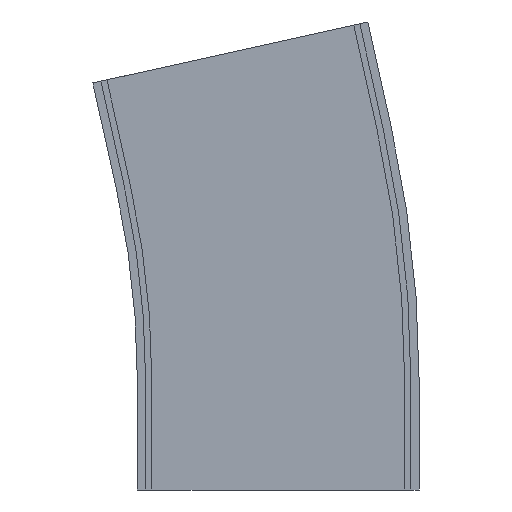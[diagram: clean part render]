
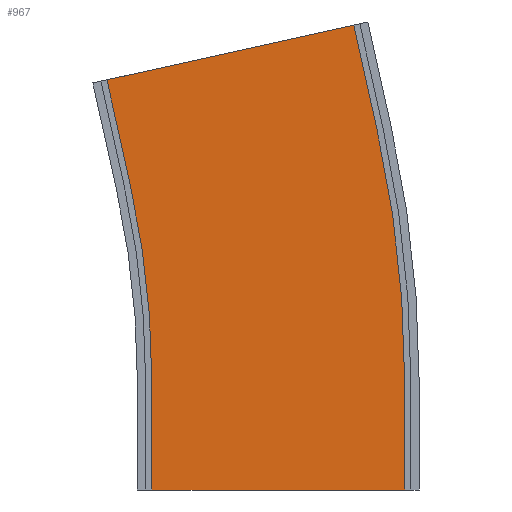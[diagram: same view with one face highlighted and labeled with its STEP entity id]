
A CAD part, left-side view. The second image highlights one B-rep face of the part: STEP entity #967.
In plain terms, the highlighted planar face has unit normal (-1, 0, 0).
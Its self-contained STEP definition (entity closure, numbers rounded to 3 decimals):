
#7 = DIRECTION ( 'NONE',  ( 0., 0., -1. ) ) ;
#18 = DIRECTION ( 'NONE',  ( 0., -0.976, 0.216 ) ) ;
#90 = CARTESIAN_POINT ( 'NONE',  ( -249.5, 71.65, 147.463 ) ) ;
#99 = CARTESIAN_POINT ( 'NONE',  ( -249.5, 61.25, 52.5 ) ) ;
#107 = PLANE ( 'NONE',  #476 ) ;
#159 = CARTESIAN_POINT ( 'NONE',  ( -249.5, 83.013, 198.718 ) ) ;
#173 = VERTEX_POINT ( 'NONE', #906 ) ;
#178 = CIRCLE ( 'NONE', #1222, 438.75 ) ;
#223 = VERTEX_POINT ( 'NONE', #1371 ) ;
#224 = EDGE_CURVE ( 'NONE', #336, #1180, #666, .T. ) ;
#262 = LINE ( 'NONE', #688, #410 ) ;
#267 = ORIENTED_EDGE ( 'NONE', *, *, #625, .F. ) ;
#278 = VECTOR ( 'NONE', #341, 1000. ) ;
#308 = DIRECTION ( 'NONE',  ( 0., 0.216, 0.976 ) ) ;
#336 = VERTEX_POINT ( 'NONE', #90 ) ;
#341 = DIRECTION ( 'NONE',  ( 0., 0.216, 0.976 ) ) ;
#358 = EDGE_CURVE ( 'NONE', #999, #336, #178, .T. ) ;
#369 = CARTESIAN_POINT ( 'NONE',  ( -249.5, -61.25, 52.5 ) ) ;
#390 = CARTESIAN_POINT ( 'NONE',  ( -249.5, -36.583, 225.232 ) ) ;
#396 = VECTOR ( 'NONE', #7, 1000. ) ;
#409 = CARTESIAN_POINT ( 'NONE',  ( -249.5, 71.65, 147.463 ) ) ;
#410 = VECTOR ( 'NONE', #18, 1000. ) ;
#433 = DIRECTION ( 'NONE',  ( 0., 0., 1. ) ) ;
#456 = CARTESIAN_POINT ( 'NONE',  ( -249.5, 61.25, 52.5 ) ) ;
#464 = VECTOR ( 'NONE', #998, 1000. ) ;
#465 = DIRECTION ( 'NONE',  ( 0., 0., -1. ) ) ;
#469 = ORIENTED_EDGE ( 'NONE', *, *, #676, .T. ) ;
#476 = AXIS2_PLACEMENT_3D ( 'NONE', #645, #1393, #744 ) ;
#489 = LINE ( 'NONE', #369, #1292 ) ;
#504 = ORIENTED_EDGE ( 'NONE', *, *, #922, .T. ) ;
#512 = EDGE_CURVE ( 'NONE', #1001, #778, #1299, .T. ) ;
#528 = DIRECTION ( 'NONE',  ( -1., 0., 0. ) ) ;
#529 = EDGE_CURVE ( 'NONE', #999, #173, #679, .T. ) ;
#591 = FACE_OUTER_BOUND ( 'NONE', #621, .T. ) ;
#621 = EDGE_LOOP ( 'NONE', ( #469, #965, #504, #762, #267, #1129, #1044, #1032 ) ) ;
#625 = EDGE_CURVE ( 'NONE', #1180, #778, #262, .T. ) ;
#645 = CARTESIAN_POINT ( 'NONE',  ( -249.5, -61.25, 52.5 ) ) ;
#666 = LINE ( 'NONE', #409, #893 ) ;
#676 = EDGE_CURVE ( 'NONE', #173, #1100, #809, .T. ) ;
#679 = LINE ( 'NONE', #456, #396 ) ;
#688 = CARTESIAN_POINT ( 'NONE',  ( -249.5, -36.583, 225.232 ) ) ;
#744 = DIRECTION ( 'NONE',  ( 0., 1., 0. ) ) ;
#762 = ORIENTED_EDGE ( 'NONE', *, *, #512, .T. ) ;
#763 = CARTESIAN_POINT ( 'NONE',  ( -249.5, -47.946, 173.977 ) ) ;
#778 = VERTEX_POINT ( 'NONE', #390 ) ;
#809 = LINE ( 'NONE', #1213, #464 ) ;
#893 = VECTOR ( 'NONE', #308, 1000. ) ;
#906 = CARTESIAN_POINT ( 'NONE',  ( -249.5, 61.25, 0. ) ) ;
#922 = EDGE_CURVE ( 'NONE', #223, #1001, #1152, .T. ) ;
#965 = ORIENTED_EDGE ( 'NONE', *, *, #1150, .F. ) ;
#967 = ADVANCED_FACE ( 'NONE', ( #591 ), #107, .F. ) ;
#998 = DIRECTION ( 'NONE',  ( 0., -1., 0. ) ) ;
#999 = VERTEX_POINT ( 'NONE', #99 ) ;
#1001 = VERTEX_POINT ( 'NONE', #1295 ) ;
#1032 = ORIENTED_EDGE ( 'NONE', *, *, #529, .T. ) ;
#1044 = ORIENTED_EDGE ( 'NONE', *, *, #358, .F. ) ;
#1054 = CARTESIAN_POINT ( 'NONE',  ( -249.5, 500., 52.5 ) ) ;
#1057 = DIRECTION ( 'NONE',  ( 0., 0., 1. ) ) ;
#1100 = VERTEX_POINT ( 'NONE', #1304 ) ;
#1129 = ORIENTED_EDGE ( 'NONE', *, *, #224, .F. ) ;
#1136 = AXIS2_PLACEMENT_3D ( 'NONE', #1054, #528, #1057 ) ;
#1150 = EDGE_CURVE ( 'NONE', #223, #1100, #489, .T. ) ;
#1152 = CIRCLE ( 'NONE', #1136, 561.25 ) ;
#1164 = CARTESIAN_POINT ( 'NONE',  ( -249.5, 500., 52.5 ) ) ;
#1180 = VERTEX_POINT ( 'NONE', #159 ) ;
#1213 = CARTESIAN_POINT ( 'NONE',  ( -249.5, -61.25, 0. ) ) ;
#1222 = AXIS2_PLACEMENT_3D ( 'NONE', #1164, #1273, #433 ) ;
#1273 = DIRECTION ( 'NONE',  ( -1., 0., 0. ) ) ;
#1292 = VECTOR ( 'NONE', #465, 1000. ) ;
#1295 = CARTESIAN_POINT ( 'NONE',  ( -249.5, -47.946, 173.977 ) ) ;
#1299 = LINE ( 'NONE', #763, #278 ) ;
#1304 = CARTESIAN_POINT ( 'NONE',  ( -249.5, -61.25, 0. ) ) ;
#1371 = CARTESIAN_POINT ( 'NONE',  ( -249.5, -61.25, 52.5 ) ) ;
#1393 = DIRECTION ( 'NONE',  ( 1., 0., 0. ) ) ;
